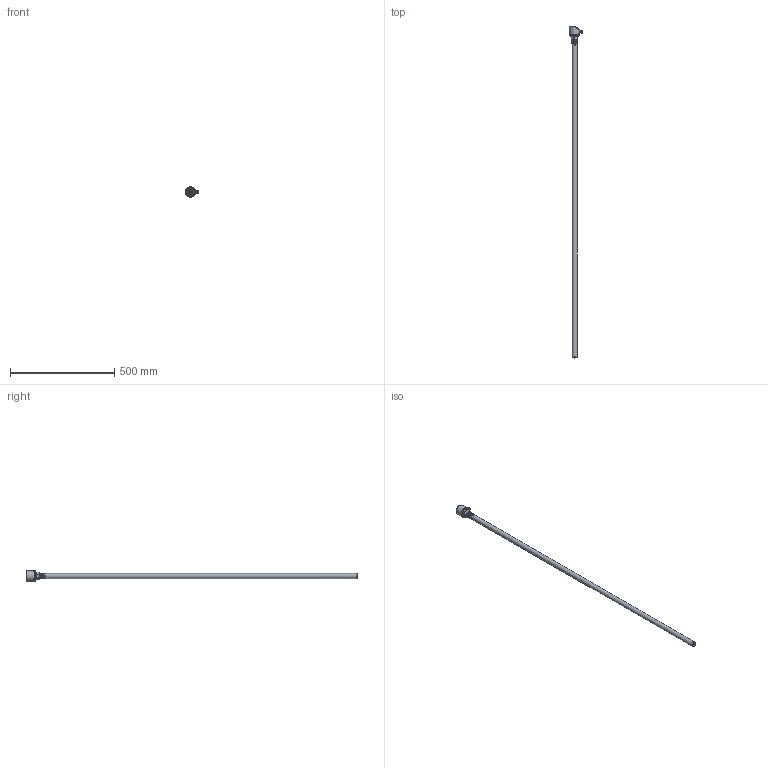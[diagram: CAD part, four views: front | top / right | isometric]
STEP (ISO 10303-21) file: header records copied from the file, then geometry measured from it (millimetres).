
FILE_DESCRIPTION (( 'STEP AP214' ), '1' );
FILE_NAME ('3-4数显电容-1500（同轴）.STEP', '2025-03-11T06:33:52', ( '' ), ( '' ), 'SwSTEP 2.0', 'SolidWorks 2020', '' );
FILE_SCHEMA (( 'AUTOMOTIVE_DESIGN' ));
Length unit declared in the file: millimetre
Products named in the file (9): 抻芛ㄗ蟀哿講ㄘ; 偌瑩簽; 揤薯奻裔; 滅阨諉芛褲极1; 3-4数显电容-1500（同轴）; 恦謫抻芛5; PVC躇猾菜; 肮粣奪; 揤薯珆尨欶
Assembly tree (10 placements, depth 2):
  3-4数显电容-1500（同轴）
    揤薯奻裔
    揤薯珆尨欶
    滅阨諉芛褲极1
    偌瑩簽  x3
    PVC躇猾菜
    恦謫抻芛5
    抻芛ㄗ蟀哿講ㄘ
    肮粣奪
Bounding box: 64 x 1590.1 x 50 mm (x, y, z)
Volume: 315226.3 mm3; surface area: 293139.5 mm2
Topology: 10 solids, 10 shells, 318 faces, 752 edges, 486 vertices
Faces by surface type: plane 128, cylinder 118, cone 44, bspline 13, torus 11, sphere 4
Full cylindrical faces by diameter (mm): 1 x4, 1.2 x3, 1.8 x1, 2 x3, 2.5 x6, 2.8 x1, 4.3 x3, 4.5 x6, 5 x8, 6 x1, 7.2 x1, 8 x1, 8.5 x1, 9.75 x1, 10 x1, 10.49 x1, 10.5 x1, 10.8 x1, 10.9 x1, 11 x2, 12 x1, 21 x2, 24 x2, 29.5 x1, 35 x1, 37 x1, 43.9 x1, 45.4 x1, 45.6 x2, 48 x3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
Entity records: 14721 total; most frequent: CARTESIAN_POINT 7955, DIRECTION 1314, ORIENTED_EDGE 1104, EDGE_CURVE 552, AXIS2_PLACEMENT_3D 536, EDGE_LOOP 479, VERTEX_POINT 411, FACE_OUTER_BOUND 359
